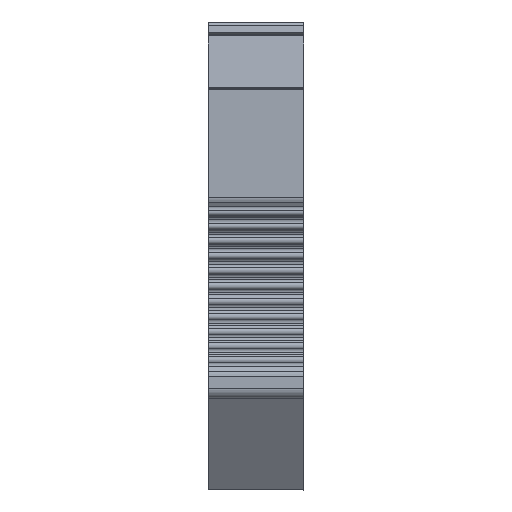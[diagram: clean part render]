
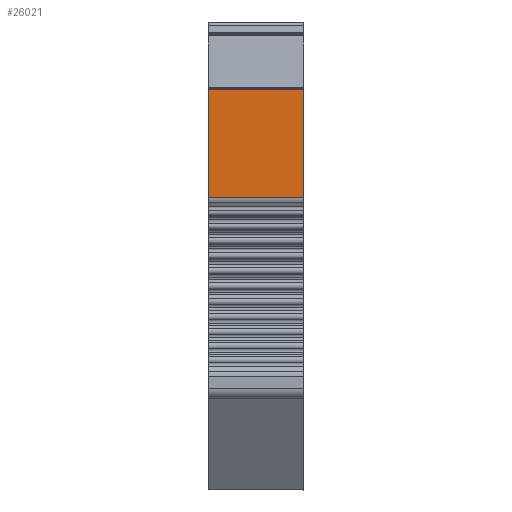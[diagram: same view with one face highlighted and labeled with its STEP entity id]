
A CAD part, left-side view. The second image highlights one B-rep face of the part: STEP entity #26021.
In plain terms, the highlighted planar face has unit normal (-1, 0, 0).
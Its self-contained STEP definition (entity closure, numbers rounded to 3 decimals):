
#1198=DIRECTION('',(0.,0.,1.));
#1199=VECTOR('',#1198,11.471);
#1200=CARTESIAN_POINT('',(-1.676,0.,
-18.618));
#1201=LINE('',#1200,#1199);
#6045=DIRECTION('',(0.,-1.,0.));
#6046=VECTOR('',#6045,10.15);
#6047=CARTESIAN_POINT('',(-1.676,10.15,
-18.618));
#6048=LINE('',#6047,#6046);
#6049=DIRECTION('',(0.,0.,1.));
#6050=VECTOR('',#6049,11.471);
#6051=CARTESIAN_POINT('',(-1.676,10.15,
-18.618));
#6052=LINE('',#6051,#6050);
#6053=DIRECTION('',(0.,1.,0.));
#6054=VECTOR('',#6053,10.15);
#6055=CARTESIAN_POINT('',(-1.676,0.,
-7.147));
#6056=LINE('',#6055,#6054);
#15993=CARTESIAN_POINT('',(-1.676,0.,
-18.618));
#15994=VERTEX_POINT('',#15993);
#15995=CARTESIAN_POINT('',(-1.676,0.,
-7.147));
#15996=VERTEX_POINT('',#15995);
#17403=CARTESIAN_POINT('',(-1.676,10.15,
-7.147));
#17404=VERTEX_POINT('',#17403);
#17405=CARTESIAN_POINT('',(-1.676,10.15,
-18.618));
#17406=VERTEX_POINT('',#17405);
#26009=CARTESIAN_POINT('',(-1.676,-0.292,
-18.942));
#26010=DIRECTION('',(-1.,0.,0.));
#26011=DIRECTION('',(0.,0.,1.));
#26012=AXIS2_PLACEMENT_3D('',#26009,#26010,#26011);
#26013=PLANE('',#26012);
#26014=ORIENTED_EDGE('',*,*,#20494,.F.);
#26015=ORIENTED_EDGE('',*,*,#26004,.F.);
#26016=ORIENTED_EDGE('',*,*,#21414,.T.);
#26018=ORIENTED_EDGE('',*,*,#26017,.F.);
#26019=EDGE_LOOP('',(#26014,#26015,#26016,#26018));
#26020=FACE_OUTER_BOUND('',#26019,.F.);
#26021=ADVANCED_FACE('',(#26020),#26013,.T.);
#20494=EDGE_CURVE('',#15994,#15996,#1201,.T.);
#21414=EDGE_CURVE('',#17406,#17404,#6052,.T.);
#26004=EDGE_CURVE('',#17406,#15994,#6048,.T.);
#26017=EDGE_CURVE('',#15996,#17404,#6056,.T.);
